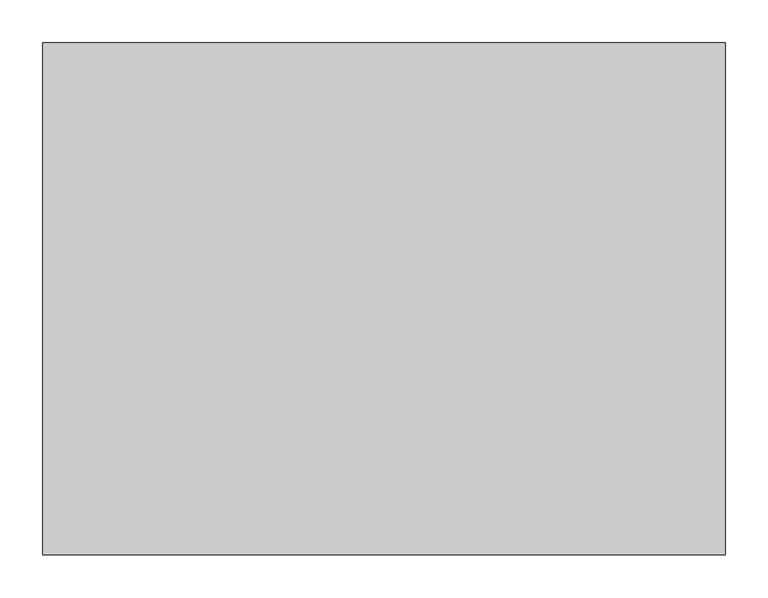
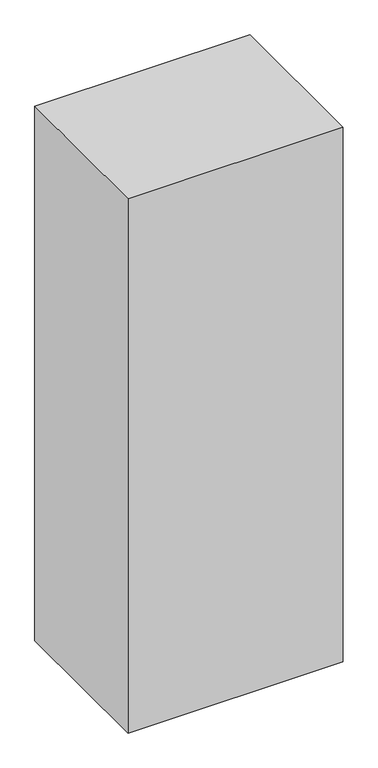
"""IFC4 building model written with IfcOpenShell, lengths in millimetres: proxy geometry, BIMHealth-Suction_Cleaner-LOD2A-v1 : BIMHealth-Suction_Cleaner-LOD2A-v1."""

from ifc_helpers import new_model, si_unit, point, frame, frame_2d, origin, origin_with_axes, origin_2d, place, context, project, spatial, polyline, circle_curve, ellipse_curve, trimmed, segment, composite_curve, outline, extrude, faceted_brep, source, transform, mapped, element, save
from ifc_brep_helpers import plane_surface, cylinder_surface, revolved_surface, advanced_brep


def mechanical_equipment_3b0f551e(model_context):
    return source(origin(), model_context, "Body", "SolidModel", [
        extrude(outline(polyline([(31.7907255, -27.7509599), (29.9445717, -27.7509599), (29.3496198, -25.9030031), (27.8964948, -24.7347339), (25.6825525, -24.2894214), (23.7534659, -24.6265608), (26.3478169, -29.4871377), (29.2414467, -30.3975945), (30.8117592, -31.7713926), (31.3291871, -33.6067291), (30.689163, -35.6962724), (28.8195717, -37.171032), (26.0827928, -37.6740368), (23.1621198, -37.1475945), (21.2150044, -35.6007195), (20.4830332, -33.2894214), (22.3291871, -33.2894214), (23.3748602, -35.186056), (26.0106775, -35.8278829), (28.6537063, -35.1932676), (29.4830332, -33.6608156), (25.8808698, -31.3495176), (22.6140428, -30.4228349), (20.8273842, -28.9264406), (20.252264, -26.8387002), (20.9139227, -24.6301666), (22.8177688, -23.0183877), (25.6104371, -22.4432676), (28.907913, -23.0634599), (30.9938505, -24.9312483), (31.7907255, -27.7509599)])), frame((0.0, 0.0, 420.0), z_axis=(0.0, 0.0, 1.0), x_axis=(1.0, 0.0, 0.0)), (0.0, 0.0, 1.0), 2.0),
        extrude(outline(polyline([(10.7907255, -22.6740368), (10.7907255, -24.5382195), (14.1224563, -22.4432676), (15.8586342, -22.811056), (17.7138025, -26.8098541), (17.7138025, -33.5201906), (15.8676486, -33.5201906), (15.8676486, -27.6788445), (15.7558698, -25.7966329), (12.1086342, -24.7004791), (10.7907255, -27.8771618), (10.7907255, -33.5201906), (8.9445717, -33.5201906), (8.9445717, -22.6740368), (10.7907255, -22.6740368)])), frame((0.0, 0.0, 420.0), z_axis=(0.0, 0.0, 1.0), x_axis=(1.0, 0.0, 0.0)), (0.0, 0.0, 1.0), 2.0),
        extrude(outline(polyline([(-0.5169668, -26.5971137), (-2.3631206, -26.3663445), (-0.8811495, -23.483532), (2.0467352, -22.4432676), (5.5461342, -23.8945897), (6.8676486, -28.0574502), (6.3033457, -31.124157), (4.5833938, -33.0947099), (2.0719755, -33.7509599), (-0.7351158, -32.8495176), (-2.1323514, -30.2894214), (-0.2861975, -30.0586522), (0.5701727, -31.4414647), (4.1975765, -30.9925464), (5.0214948, -28.107931), (4.2156053, -25.1962724), (2.1080332, -24.2894214), (0.3682496, -24.8555272), (-0.5169668, -26.5971137)])), frame((0.0, 0.0, 420.0), z_axis=(0.0, 0.0, 1.0), x_axis=(1.0, 0.0, 0.0)), (0.0, 0.0, 1.0), 2.0),
        extrude(outline(polyline([(-6.9785052, -24.9582916), (-8.1323514, -22.6199502), (-4.2092745, -25.6487964), (-4.2092745, -31.6740368), (-2.8246591, -33.5201906), (-4.2092745, -36.1560079), (-6.0554283, -37.2413445), (-6.0554283, -33.5201906), (-7.9015822, -33.5201906), (-7.9015822, -31.6740368), (-6.0554283, -31.6740368), (-6.9785052, -24.9582916)])), frame((0.0, 0.0, 420.0), z_axis=(0.0, 0.0, 1.0), x_axis=(1.0, 0.0, 0.0)), (0.0, 0.0, 1.0), 2.0),
        extrude(outline(polyline([(-9.747736, -35.5971137), (-9.747736, -37.4432676), (-11.5938898, -37.4432676), (-11.5938898, -35.5971137), (-9.747736, -35.5971137)])), frame((0.0, 0.0, 420.0), z_axis=(0.0, 0.0, 1.0), x_axis=(1.0, 0.0, 0.0)), (0.0, 0.0, 1.0), 2.0),
        extrude(outline(polyline([(-9.747736, -22.6740368), (-9.747736, -33.5201906), (-11.5938898, -33.5201906), (-11.5938898, -22.6740368), (-9.747736, -22.6740368)])), frame((0.0, 0.0, 420.0), z_axis=(0.0, 0.0, 1.0), x_axis=(1.0, 0.0, 0.0)), (0.0, 0.0, 1.0), 2.0),
        extrude(outline(polyline([(-13.9015822, -28.0971137), (-15.4989379, -32.5502387), (-18.7513418, -33.7509599), (-22.2399235, -32.2888204), (-23.5938898, -28.248556), (-22.9953322, -24.9637002), (-21.2519427, -23.1049262), (-18.7513418, -22.4432676), (-15.2411254, -23.8999983), (-13.9015822, -28.0971137)]), holes=[polyline([(-15.747736, -28.1007195), (-16.6023033, -25.2395416), (-18.7513418, -24.2894214), (-20.8931687, -25.2449502), (-21.747736, -28.1584118), (-20.88776, -30.9546858), (-18.7513418, -31.904806), (-16.6023033, -30.9582916), (-15.747736, -28.1007195)])]), frame((0.0, 0.0, 420.0), z_axis=(0.0, 0.0, 1.0), x_axis=(1.0, 0.0, 0.0)), (0.0, 0.0, 1.0), 2.0),
        extrude(outline(polyline([(-25.6708129, -22.6740368), (-25.6708129, -33.5201906), (-27.5169668, -33.5201906), (-30.8559091, -33.7509599), (-32.5992985, -33.3993974), (-34.4400437, -29.3338926), (-34.4400437, -22.6740368), (-32.5938898, -22.6740368), (-32.5938898, -29.0850945), (-32.3811495, -30.7185079), (-28.3589139, -31.1800464), (-27.5169668, -28.4288445), (-27.5169668, -22.6740368), (-25.6708129, -22.6740368)])), frame((0.0, 0.0, 420.0), z_axis=(0.0, 0.0, 1.0), x_axis=(1.0, 0.0, 0.0)), (0.0, 0.0, 1.0), 2.0),
        extrude(outline(polyline([(31.0984178, 32.0182709), (31.0984178, 17.2490401), (26.0034659, 17.2490401), (23.3676486, 17.4617805), (21.1969755, 18.5182709), (19.4481775, 21.0423094), (18.8676486, 24.5543286), (19.2606775, 27.5344969), (20.2702928, 29.6853382), (21.6188505, 31.0248815), (23.3838746, 31.7658671), (25.7582736, 32.0182709), (31.0984178, 32.0182709)]), holes=[polyline([(29.252264, 30.1721171), (25.9854371, 30.1721171), (23.6092352, 29.9052901), (21.1158457, 27.3181507), (20.7138025, 24.5254824), (21.501663, 21.0278863), (23.4181294, 19.3908671), (26.0359178, 19.095194), (29.252264, 19.095194), (29.252264, 30.1721171)])]), frame((0.0, 0.0, 420.0), z_axis=(0.0, 0.0, 1.0), x_axis=(1.0, 0.0, 0.0)), (0.0, 0.0, 1.0), 2.0),
        extrude(outline(polyline([(8.9662063, 28.7875017), (7.1561102, 29.0182709), (8.8490188, 31.4016844), (12.002264, 32.2490401), (15.8351967, 30.7869007), (17.252264, 26.6853382), (15.8207736, 22.4485594), (12.1068313, 20.9413478), (8.4992592, 22.4449536), (7.0984178, 26.6745209), (15.4061102, 27.1721171), (14.3442111, 29.5699536), (11.9662063, 30.4028863), (10.1561102, 30.017069), (8.9662063, 28.7875017)]), holes=[polyline([(15.4061102, 25.3259632), (8.9445717, 25.3259632), (9.6837544, 23.6528863), (12.1140428, 22.7875017), (14.3874803, 23.4780065), (15.4061102, 25.3259632)])]), frame((0.0, 0.0, 420.0), z_axis=(0.0, 0.0, 1.0), x_axis=(1.0, 0.0, 0.0)), (0.0, 0.0, 1.0), 2.0),
        extrude(outline(polyline([(2.5839948, 32.0182709), (6.4061102, 21.1721171), (4.455389, 21.1721171), (2.1404852, 27.6697132), (1.4445717, 29.8548094), (0.7630813, 27.7923094), (-1.5626398, 21.1721171), (-3.5169668, 21.1721171), (0.2510621, 32.0182709), (2.5839948, 32.0182709)])), frame((0.0, 0.0, 420.0), z_axis=(0.0, 0.0, 1.0), x_axis=(1.0, 0.0, 0.0)), (0.0, 0.0, 1.0), 2.0),
        extrude(outline(polyline([(-5.1323514, 19.095194), (-5.1323514, 17.2490401), (-6.9785052, 17.2490401), (-6.9785052, 19.095194), (-5.1323514, 19.095194)])), frame((0.0, 0.0, 420.0), z_axis=(0.0, 0.0, 1.0), x_axis=(1.0, 0.0, 0.0)), (0.0, 0.0, 1.0), 2.0),
        extrude(outline(polyline([(-5.1323514, 32.0182709), (-5.1323514, 21.1721171), (-6.9785052, 21.1721171), (-6.9785052, 32.0182709), (-5.1323514, 32.0182709)])), frame((0.0, 0.0, 420.0), z_axis=(0.0, 0.0, 1.0), x_axis=(1.0, 0.0, 0.0)), (0.0, 0.0, 1.0), 2.0),
        extrude(outline(polyline([(-16.6708129, 28.095194), (-18.5169668, 28.3259632), (-17.0349956, 31.2087757), (-14.107111, 32.2490401), (-10.607712, 30.797718), (-9.2861975, 26.6348574), (-9.8505004, 23.5681507), (-11.5704523, 21.5975978), (-14.0818706, 20.9413478), (-16.888962, 21.8427901), (-18.2861975, 24.4028863), (-16.4400437, 24.6336555), (-15.5836735, 23.250843), (-11.9562697, 23.6997613), (-11.1323514, 26.5843767), (-11.9382408, 29.4960353), (-14.0458129, 30.4028863), (-15.7855966, 29.8367805), (-16.6708129, 28.095194)])), frame((0.0, 0.0, 420.0), z_axis=(0.0, 0.0, 1.0), x_axis=(1.0, 0.0, 0.0)), (0.0, 0.0, 1.0), 2.0),
        extrude(outline(polyline([(-27.7261014, 28.7875017), (-29.5361975, 29.0182709), (-27.8432889, 31.4016844), (-24.6900437, 32.2490401), (-20.857111, 30.7869007), (-19.4400437, 26.6853382), (-20.8715341, 22.4485594), (-24.5854764, 20.9413478), (-28.1930485, 22.4449536), (-29.5938898, 26.6745209), (-21.2861975, 27.1721171), (-22.3480966, 29.5699536), (-24.7261014, 30.4028863), (-26.5361975, 30.017069), (-27.7261014, 28.7875017)]), holes=[polyline([(-21.2861975, 25.3259632), (-27.747736, 25.3259632), (-27.0085533, 23.6528863), (-24.5782648, 22.7875017), (-22.3048273, 23.4780065), (-21.2861975, 25.3259632)])]), frame((0.0, 0.0, 420.0), z_axis=(0.0, 0.0, 1.0), x_axis=(1.0, 0.0, 0.0)), (0.0, 0.0, 1.0), 2.0),
        extrude(outline(composite_curve([segment(trimmed(circle_curve(frame_2d((-87.5, 25.0)), 25.0), [point((-112.5, 25.0))], [point((-62.5, 25.0))], False, "CARTESIAN"), True, "CONTINUOUS"), segment(trimmed(circle_curve(frame_2d((-87.5, 25.0)), 25.0), [point((-62.5, 25.0))], [point((-112.5, 25.0))], False, "CARTESIAN"), True, "CONTINUOUS")], self_intersect=False)), frame((-75.0, 0.0, 0.0), z_axis=(1.0, 0.0, 0.0), x_axis=(0.0, 1.0, 0.0)), (0.0, 0.0, 1.0), 150.0),
        extrude(outline(composite_curve([segment(trimmed(circle_curve(frame_2d((150.0, 0.0)), 27.5), [point((150.0, -27.5))], [point((150.0, 27.5))], False, "CARTESIAN"), True, "CONTINUOUS"), segment(trimmed(circle_curve(frame_2d((150.0, 0.0)), 27.5), [point((150.0, 27.5))], [point((150.0, -27.5))], False, "CARTESIAN"), True, "CONTINUOUS")], self_intersect=False)), frame((0.0, -189.6247247, 0.0), z_axis=(0.0, 1.0, 0.0), x_axis=(0.0, 0.0, 1.0)), (0.0, 0.0, 1.0), 25.8747247),
        extrude(outline(composite_curve([segment(trimmed(circle_curve(frame_2d((303.137085, -238.75)), 27.5), [point((275.637085, -238.75))], [point((330.637085, -238.75))], False, "CARTESIAN"), True, "CONTINUOUS"), segment(trimmed(circle_curve(frame_2d((303.137085, -238.75)), 27.5), [point((330.637085, -238.75))], [point((275.637085, -238.75))], False, "CARTESIAN"), True, "CONTINUOUS")], self_intersect=False)), frame((0.0, 0.0, 69.1096418), z_axis=(0.0, 0.0, 1.0), x_axis=(1.0, 0.0, 0.0)), (0.0, 0.0, 1.0), 190.8903582),
        extrude(outline(polyline([(238.137085, -103.1660691), (368.137085, -103.1660691), (368.137085, -348.1660691), (238.137085, -348.1660691), (238.137085, -103.1660691)])), frame((0.0, 0.0, 40.0), z_axis=(0.0, 0.0, 1.0), x_axis=(1.0, 0.0, 0.0)), (0.0, 0.0, 1.0), 10.0),
        faceted_brep([(343.137085, -323.1660691, 69.1096418), (343.137085, -128.1660691, 69.1096418), (263.137085, -128.1660691, 69.1096418), (263.137085, -323.1660691, 69.1096418), (363.137085, -343.1660691, 50.0), (243.137085, -343.1660691, 50.0), (243.137085, -108.1660691, 50.0), (363.137085, -108.1660691, 50.0)], [[[0, 1, 2, 3]], [[4, 5, 6, 7]], [[4, 7, 1, 0]], [[7, 6, 2, 1]], [[6, 5, 3, 2]], [[5, 4, 0, 3]]]),
        advanced_brep(
        [(25.0, -238.75, 225.0), (25.0, -238.75, 1025.0), (-25.0, -238.75, 1025.0), (-25.0, -238.75, 225.0), (0.0, -263.75, 225.0), (0.0, -213.75, 225.0), (278.137085, -238.75, 162.0710678), (328.137085, -238.75, 162.0710678), (328.137085, -238.75, 1025.0), (278.137085, -238.75, 1025.0), (0.0, -163.75, 175.0), (0.0, -163.75, 125.0), (0.0, -188.75, 175.0), (0.0, -188.75, 125.0), (0.0, -213.75, 200.0), (0.0, -263.75, 200.0)],
        [
            (0, 1),
            (1, 2, circle_curve(frame((0.0, -238.75, 1025.0), z_axis=(0.0, 0.0, -1.0), x_axis=(-1.0, 0.0, 0.0)), 25.0)),
            (2, 3),
            (3, 4, circle_curve(frame((0.0, -238.75, 225.0), z_axis=(0.0, 0.0, 1.0), x_axis=(-1.0, 0.0, 0.0)), 25.0)),
            (4, 0, circle_curve(frame((0.0, -238.75, 225.0), z_axis=(0.0, 0.0, 1.0), x_axis=(-1.0, 0.0, 0.0)), 25.0)),
            (0, 5, circle_curve(frame((0.0, -238.75, 225.0), z_axis=(0.0, 0.0, 1.0), x_axis=(-1.0, 0.0, 0.0)), 25.0)),
            (5, 3, circle_curve(frame((0.0, -238.75, 225.0), z_axis=(0.0, 0.0, 1.0), x_axis=(-1.0, 0.0, 0.0)), 25.0)),
            (2, 1, circle_curve(frame((0.0, -238.75, 1025.0), z_axis=(0.0, 0.0, -1.0), x_axis=(-1.0, 0.0, 0.0)), 25.0)),
            (6, 7, circle_curve(frame((303.137085, -238.75, 162.0710678), z_axis=(0.0, 0.0, -1.0), x_axis=(1.0, 0.0, 0.0)), 25.0)),
            (7, 6, circle_curve(frame((303.137085, -238.75, 162.0710678), z_axis=(0.0, 0.0, -1.0), x_axis=(1.0, 0.0, 0.0)), 25.0)),
            (7, 8),
            (8, 9, circle_curve(frame((303.137085, -238.75, 1025.0), z_axis=(0.0, 0.0, -1.0), x_axis=(1.0, 0.0, 0.0)), 25.0)),
            (9, 6),
            (9, 8, circle_curve(frame((303.137085, -238.75, 1025.0), z_axis=(0.0, 0.0, -1.0), x_axis=(1.0, 0.0, 0.0)), 25.0)),
            (1, 9, circle_curve(frame((151.5685425, -238.75, 1025.0), z_axis=(0.0, 1.0, 0.0), x_axis=(-1.0, 0.0, 0.0)), 126.5685425)),
            (8, 2, circle_curve(frame((151.5685425, -238.75, 1025.0), z_axis=(0.0, -1.0, 0.0), x_axis=(-1.0, 0.0, 0.0)), 176.5685425)),
            (10, 11, circle_curve(frame((0.0, -163.75, 150.0), z_axis=(0.0, 1.0, 0.0), x_axis=(0.0, 0.0, -1.0)), 25.0)),
            (11, 10, circle_curve(frame((0.0, -163.75, 150.0), z_axis=(0.0, 1.0, 0.0), x_axis=(0.0, 0.0, -1.0)), 25.0)),
            (10, 12),
            (12, 13, circle_curve(frame((0.0, -188.75, 150.0), z_axis=(0.0, 1.0, 0.0), x_axis=(0.0, 0.0, -1.0)), 25.0)),
            (13, 11),
            (13, 12, circle_curve(frame((0.0, -188.75, 150.0), z_axis=(0.0, 1.0, 0.0), x_axis=(0.0, 0.0, -1.0)), 25.0)),
            (12, 14, circle_curve(frame((0.0, -188.75, 200.0), z_axis=(-1.0, 0.0, 0.0), x_axis=(0.0, 0.0, -1.0)), 25.0)),
            (14, 15, circle_curve(frame((0.0, -238.75, 200.0), z_axis=(0.0, 0.0, -1.0), x_axis=(0.0, -1.0, 0.0)), 25.0)),
            (15, 13, circle_curve(frame((0.0, -188.75, 200.0), z_axis=(1.0, 0.0, 0.0), x_axis=(0.0, 0.0, -1.0)), 75.0)),
            (15, 14, circle_curve(frame((0.0, -238.75, 200.0), z_axis=(0.0, 0.0, -1.0), x_axis=(0.0, -1.0, 0.0)), 25.0)),
            (14, 5),
            (4, 15),
        ],
        [
            cylinder_surface(frame((0.0, -238.75, 225.0), z_axis=(0.0, 0.0, -1.0), x_axis=(-1.0, 0.0, 0.0)), 25.0),
            plane_surface(frame((303.137085, -238.75, 162.0710678), z_axis=(0.0, 0.0, -1.0), x_axis=(0.0, -1.0, 0.0))),
            cylinder_surface(frame((303.137085, -238.75, 1025.0), z_axis=(0.0, 0.0, 1.0), x_axis=(1.0, 0.0, 0.0)), 25.0),
            revolved_surface(trimmed(ellipse_curve(frame((0.0, -238.75, 1025.0), z_axis=(0.0, 0.0, -1.0), x_axis=(-1.0, 0.0, 0.0)), 25.0, 25.0), [point((25.0, -238.75, 1025.0))], [point((-25.0, -238.75, 1025.0))], True, "CARTESIAN"), (151.5685425, -238.75, 1025.0), (0.0, 1.0, 0.0)),
            revolved_surface(trimmed(ellipse_curve(frame((0.0, -238.75, 1025.0), z_axis=(0.0, 0.0, -1.0), x_axis=(-1.0, 0.0, 0.0)), 25.0, 25.0), [point((-25.0, -238.75, 1025.0))], [point((25.0, -238.75, 1025.0))], True, "CARTESIAN"), (151.5685425, -238.75, 1025.0), (0.0, 1.0, 0.0)),
            plane_surface(frame((0.0, -163.75, 150.0), z_axis=(0.0, 1.0, 0.0), x_axis=(1.0, 0.0, 0.0))),
            cylinder_surface(frame((0.0, -163.75, 150.0), z_axis=(0.0, 1.0, 0.0), x_axis=(0.0, 0.0, -1.0)), 25.0),
            revolved_surface(trimmed(ellipse_curve(frame((0.0, -188.75, 150.0), z_axis=(0.0, 1.0, 0.0), x_axis=(0.0, 0.0, -1.0)), 25.0, 25.0), [point((0.0, -188.75, 175.0))], [point((0.0, -188.75, 125.0))], True, "CARTESIAN"), (0.0, -188.75, 200.0), (-1.0, 0.0, 0.0)),
            revolved_surface(trimmed(ellipse_curve(frame((0.0, -188.75, 150.0), z_axis=(0.0, 1.0, 0.0), x_axis=(0.0, 0.0, -1.0)), 25.0, 25.0), [point((0.0, -188.75, 125.0))], [point((0.0, -188.75, 175.0))], True, "CARTESIAN"), (0.0, -188.75, 200.0), (-1.0, 0.0, 0.0)),
            cylinder_surface(frame((0.0, -238.75, 200.0), z_axis=(0.0, 0.0, -1.0), x_axis=(0.0, -1.0, 0.0)), 25.0),
        ],
        [
            (0, [[1, 2, 3, 4, 5]]),
            (0, [[-1, 6, 7, -3, 8]]),
            (1, [[9, 10]]),
            (2, [[-10, 11, 12, 13]]),
            (2, [[-9, -13, 14, -11]]),
            (3, [[-2, 15, -12, 16]]),
            (4, [[-8, -16, -14, -15]]),
            (5, [[17, 18]]),
            (6, [[-17, 19, 20, 21]]),
            (6, [[-18, -21, 22, -19]]),
            (7, [[-20, 23, 24, 25]]),
            (8, [[-22, -25, 26, -23]]),
            (9, [[-24, 27, -6, -5, 28]]),
            (9, [[-26, -28, -4, -7, -27]]),
        ],
    ),
        extrude(outline(composite_curve([segment(trimmed(circle_curve(frame_2d((-87.5, 25.0)), 25.0), [point((-112.5, 25.0))], [point((-62.5, 25.0))], False, "CARTESIAN"), True, "CONTINUOUS"), segment(trimmed(circle_curve(frame_2d((-87.5, 25.0)), 25.0), [point((-62.5, 25.0))], [point((-112.5, 25.0))], False, "CARTESIAN"), True, "CONTINUOUS")], self_intersect=False)), frame((-110.0, 0.0, 0.0), z_axis=(1.0, 0.0, 0.0), x_axis=(0.0, 1.0, 0.0)), (0.0, 0.0, 1.0), 35.0),
        extrude(outline(composite_curve([segment(trimmed(circle_curve(frame_2d((-87.5, 25.0)), 25.0), [point((-112.5, 25.0))], [point((-62.5, 25.0))], False, "CARTESIAN"), True, "CONTINUOUS"), segment(trimmed(circle_curve(frame_2d((-87.5, 25.0)), 25.0), [point((-62.5, 25.0))], [point((-112.5, 25.0))], False, "CARTESIAN"), True, "CONTINUOUS")], self_intersect=False)), frame((75.0, 0.0, 0.0), z_axis=(1.0, 0.0, 0.0), x_axis=(0.0, 1.0, 0.0)), (0.0, 0.0, 1.0), 35.0),
        extrude(outline(composite_curve([segment(trimmed(circle_curve(frame_2d((150.0, 50.0)), 45.0), [point((105.0, 50.0))], [point((195.0, 50.0))], False, "CARTESIAN"), True, "CONTINUOUS"), segment(trimmed(circle_curve(frame_2d((150.0, 50.0)), 45.0), [point((195.0, 50.0))], [point((105.0, 50.0))], False, "CARTESIAN"), True, "CONTINUOUS")], self_intersect=False)), frame((-135.0, 0.0, 0.0), z_axis=(1.0, 0.0, 0.0), x_axis=(0.0, 1.0, 0.0)), (0.0, 0.0, 1.0), 270.0),
        extrude(outline(composite_curve([segment(trimmed(circle_curve(frame_2d((150.0, 50.0)), 50.0), [point((100.0, 50.0))], [point((200.0, 50.0))], False, "CARTESIAN"), True, "CONTINUOUS"), segment(trimmed(circle_curve(frame_2d((150.0, 50.0)), 50.0), [point((200.0, 50.0))], [point((100.0, 50.0))], False, "CARTESIAN"), True, "CONTINUOUS")], self_intersect=False)), frame((-170.0, 0.0, 0.0), z_axis=(1.0, 0.0, 0.0), x_axis=(0.0, 1.0, 0.0)), (0.0, 0.0, 1.0), 35.0),
        extrude(outline(composite_curve([segment(trimmed(circle_curve(frame_2d((150.0, 50.0)), 50.0), [point((100.0, 50.0))], [point((200.0, 50.0))], False, "CARTESIAN"), True, "CONTINUOUS"), segment(trimmed(circle_curve(frame_2d((150.0, 50.0)), 50.0), [point((200.0, 50.0))], [point((100.0, 50.0))], False, "CARTESIAN"), True, "CONTINUOUS")], self_intersect=False)), frame((135.0, 0.0, 0.0), z_axis=(1.0, 0.0, 0.0), x_axis=(0.0, 1.0, 0.0)), (0.0, 0.0, 1.0), 35.0),
        extrude(outline(composite_curve([segment(polyline([(-5.0, 0.0), (15.0, 0.0)]), True, "CONTINUOUS"), segment(trimmed(circle_curve(frame_2d((15.0, 20.0)), 20.0), [point((15.0, 0.0))], [point((35.0, 20.0))], True, "CARTESIAN"), True, "CONTINUOUS"), segment(polyline([(35.0, 20.0), (35.0, 80.0)]), True, "CONTINUOUS"), segment(trimmed(circle_curve(frame_2d((15.0, 80.0)), 20.0), [point((35.0, 80.0))], [point((15.0, 100.0))], True, "CARTESIAN"), True, "CONTINUOUS"), segment(polyline([(15.0, 100.0), (-5.0, 100.0), (-5.0, 110.0), (15.0, 110.0)]), True, "CONTINUOUS"), segment(trimmed(circle_curve(frame_2d((15.0, 80.0)), 30.0), [point((15.0, 110.0))], [point((45.0, 80.0))], False, "CARTESIAN"), True, "CONTINUOUS"), segment(polyline([(45.0, 80.0), (45.0, 20.0)]), True, "CONTINUOUS"), segment(trimmed(circle_curve(frame_2d((15.0, 20.0)), 30.0), [point((45.0, 20.0))], [point((15.0, -10.0))], False, "CARTESIAN"), True, "CONTINUOUS"), segment(polyline([(15.0, -10.0), (-5.0, -10.0), (-5.0, 0.0)]), True, "CONTINUOUS")], self_intersect=False)), frame((-48.9766879, -8.5421282, 425.0), z_axis=(7.330893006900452e-05, 0.9999999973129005, 0.0), x_axis=(0.0, 0.0, 1.0)), (0.0, 0.0, 1.0), 17.0827903),
        advanced_brep(
        [(170.0, 0.0, 260.0), (-170.0, 0.0, 260.0), (-170.0, 0.0, 375.6809401), (170.0, 0.0, 375.6809401), (60.0, 0.0, 420.0), (-60.0, 0.0, 420.0)],
        [
            (0, 1, circle_curve(frame((0.0, 0.0, 260.0), z_axis=(0.0, 0.0, -1.0), x_axis=(-1.0, 0.0, 0.0)), 170.0)),
            (1, 0, circle_curve(frame((0.0, 0.0, 260.0), z_axis=(0.0, 0.0, -1.0), x_axis=(-1.0, 0.0, 0.0)), 170.0)),
            (1, 2),
            (2, 3, circle_curve(frame((0.0, 0.0, 375.6809401), z_axis=(0.0, 0.0, -1.0), x_axis=(-1.0, 0.0, 0.0)), 170.0)),
            (3, 0),
            (3, 2, circle_curve(frame((0.0, 0.0, 375.6809401), z_axis=(0.0, 0.0, -1.0), x_axis=(-1.0, 0.0, 0.0)), 170.0)),
            (4, 5, circle_curve(frame((0.0, 0.0, 420.0), z_axis=(0.0, 0.0, 1.0), x_axis=(1.0, 0.0, 0.0)), 60.0)),
            (5, 4, circle_curve(frame((0.0, 0.0, 420.0), z_axis=(0.0, 0.0, 1.0), x_axis=(-1.0, 0.0, 0.0)), 60.0)),
            (4, 3),
            (2, 5),
        ],
        [
            plane_surface(frame((-170.0, 0.0, 260.0), z_axis=(0.0, 0.0, -1.0), x_axis=(0.0, 1.0, 0.0))),
            cylinder_surface(frame((0.0, 0.0, 260.0), z_axis=(0.0, 0.0, 1.0), x_axis=(-1.0, 0.0, 0.0)), 170.0),
            plane_surface(frame((0.0, 0.0, 420.0), z_axis=(0.0, 0.0, 1.0), x_axis=(0.0, 1.0, 0.0))),
            revolved_surface(polyline([(60.00000004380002, 0.0, 420.0), (170.0, 0.0, 375.6809401)]), (0.0, 0.0, 444.1740327), (0.0, 0.0, -1.0)),
            revolved_surface(polyline([(-60.00000004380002, 0.0, 420.0), (-170.0, 0.0, 375.6809401)]), (0.0, 0.0, 444.1740327), (0.0, 0.0, -1.0)),
        ],
        [
            (0, [[1, 2]]),
            (1, [[-2, 3, 4, 5]]),
            (1, [[-1, -5, 6, -3]]),
            (2, [[7, 8]]),
            (3, [[-7, 9, -4, 10]]),
            (4, [[-8, -10, -6, -9]]),
        ],
    ),
        extrude(outline(composite_curve([segment(trimmed(circle_curve(origin_2d(), 165.0), [point((165.0, 0.0))], [point((-165.0, 0.0))], False, "CARTESIAN"), True, "CONTINUOUS"), segment(trimmed(circle_curve(origin_2d(), 165.0), [point((-165.0, 0.0))], [point((165.0, 0.0))], False, "CARTESIAN"), True, "CONTINUOUS")], self_intersect=False)), frame((0.0, 0.0, 50.0), z_axis=(0.0, 0.0, 1.0), x_axis=(1.0, 0.0, 0.0)), (0.0, 0.0, 1.0), 210.0),
        extrude(outline(polyline([(490.0, 200.0), (490.0, -400.0), (-310.0, -400.0), (-310.0, 200.0), (490.0, 200.0)])), origin_with_axes(), (0.0, 0.0, 1.0), 2100.0),
    ])


if __name__ == "__main__":
    model = new_model("IFC4")
    model_context = context("Model", 3, world=origin())
    ifc_project = project(units=[si_unit("LENGTHUNIT", "METRE", prefix="MILLI")], contexts=[model_context])
    site = spatial("IfcSite", under=ifc_project)
    building = spatial("IfcBuilding", under=site)
    placement = place(None, origin())
    mechanical_equipment_shape = mechanical_equipment_3b0f551e(model_context)
    element("IfcBuildingElementProxy", 1, Name="BIMHealth-Suction_Cleaner-LOD2A-v1 : BIMHealth-Suction_Cleaner-LOD2A-v1", ObjectType="BIMHealth-Suction_Cleaner-LOD2A-v1 : BIMHealth-Suction_Cleaner-LOD2A-v1", at=placement, inside=building, context=model_context, shape_type="MappedRepresentation", body=[
        mapped(mechanical_equipment_shape, transform((0.0, 0.0, 0.0), x_axis=(1.0, 0.0, 0.0), y_axis=(0.0, 1.0, 0.0), z_axis=(0.0, 0.0, 1.0))),
    ])
    save(model, "model.ifc")
